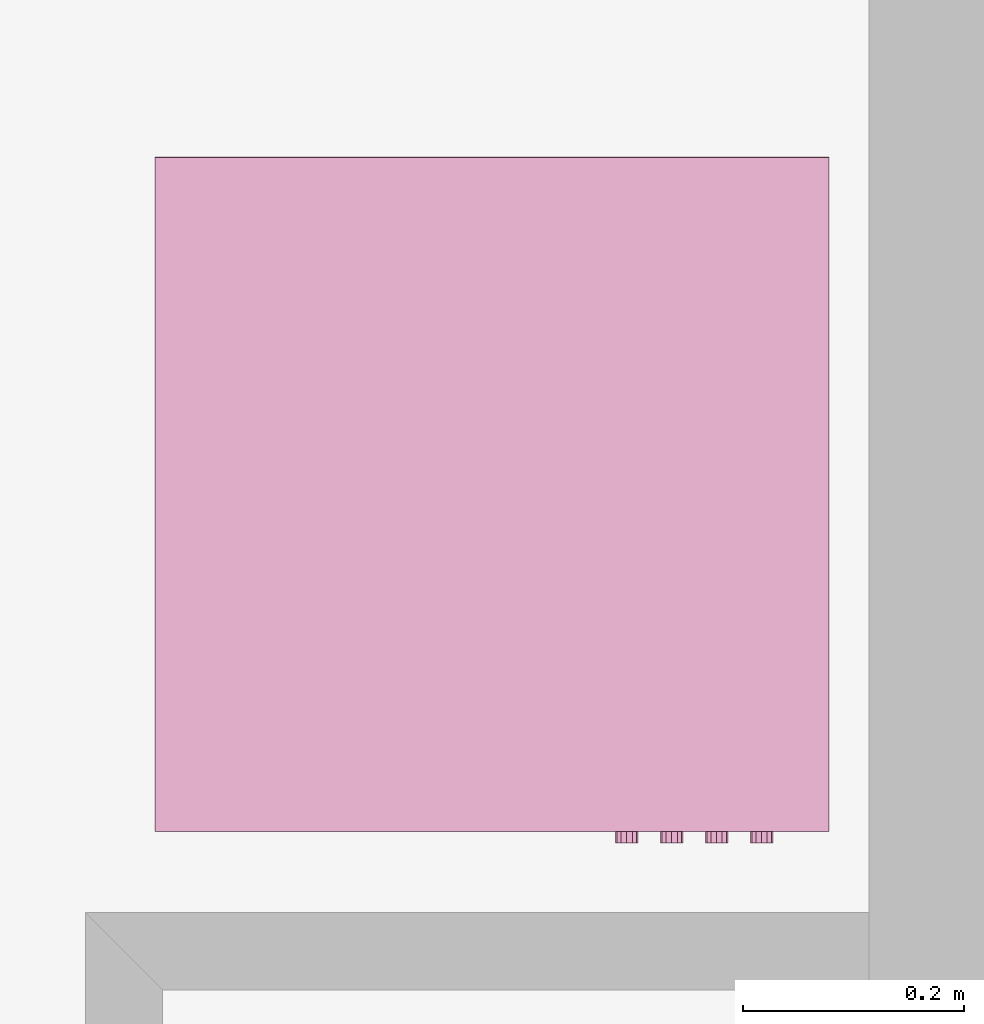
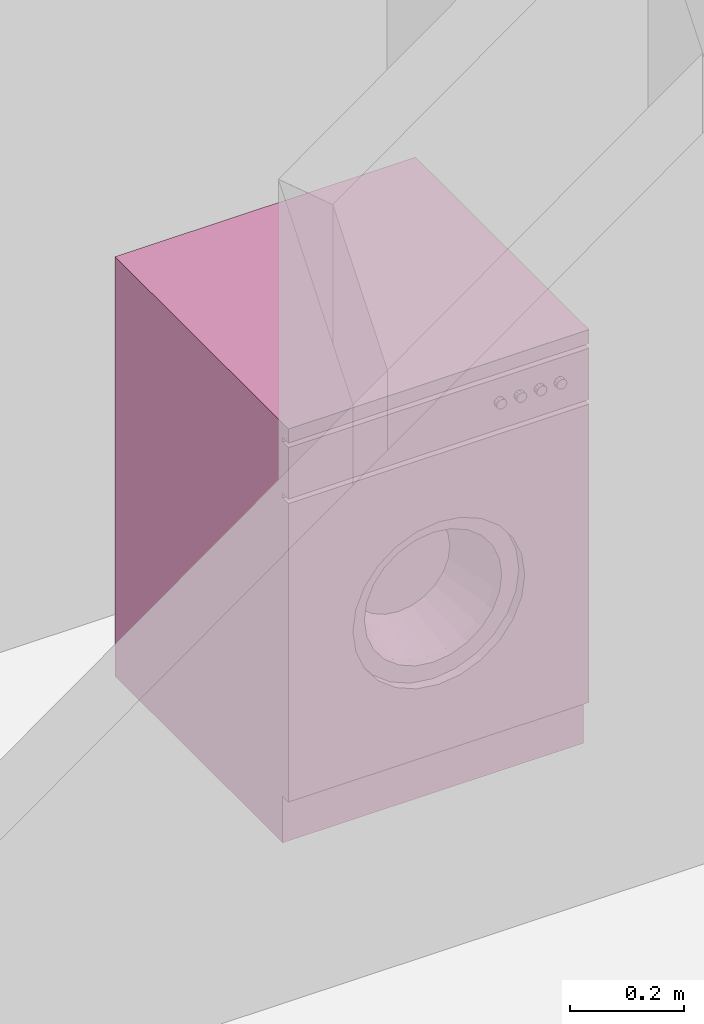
# One storey, part 144 of 171: 1 furnishing.
"""IFC2X3 building model written with IfcOpenShell, lengths in millimetres."""

from ifc_helpers import new_model, entity, si_unit, converted_unit, derived_unit, money_unit, direction, frame, origin_with_axes, place, context, subcontext, project, spatial, open_shell, faceted_brep, surface_model, type_object, element, save


model = new_model("IFC2X3")

# Units and contexts
model_context = context("Model", 3, precision=0.01, world=origin_with_axes(), true_north=direction((0.0, 1.0)))
body_context = subcontext(model_context, "Body", "Model", "MODEL_VIEW")
ifc_project = project(units=[si_unit("LENGTHUNIT", "METRE", prefix="MILLI"), si_unit("AREAUNIT", "SQUARE_METRE"), si_unit("VOLUMEUNIT", "CUBIC_METRE"), converted_unit("PLANEANGLEUNIT", "DEGREE", entity("IfcPlaneAngleMeasure", 0.0174532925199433), si_unit("PLANEANGLEUNIT", "RADIAN"), dimensions=[0, 0, 0, 0, 0, 0, 0]), money_unit("USD"), converted_unit("TIMEUNIT", "Year", entity("IfcTimeMeasure", 31557600.0), si_unit("TIMEUNIT", "SECOND"), dimensions=[0, 0, 1, 0, 0, 0, 0]), si_unit("MASSUNIT", "GRAM", prefix="KILO"), si_unit("THERMODYNAMICTEMPERATUREUNIT", "DEGREE_CELSIUS"), si_unit("LUMINOUSINTENSITYUNIT", "LUMEN"), si_unit("ENERGYUNIT", "JOULE", prefix="MEGA"), derived_unit("THERMALCONDUCTANCEUNIT", [(si_unit("POWERUNIT", "WATT"), 1), (si_unit("LENGTHUNIT", "METRE"), -1), (si_unit("THERMODYNAMICTEMPERATUREUNIT", "KELVIN"), -1)]), derived_unit("SPECIFICHEATCAPACITYUNIT", [(si_unit("ENERGYUNIT", "JOULE"), 1), (si_unit("MASSUNIT", "GRAM", prefix="KILO"), -1), (si_unit("THERMODYNAMICTEMPERATUREUNIT", "KELVIN"), -1)]), derived_unit("MASSDENSITYUNIT", [(si_unit("MASSUNIT", "GRAM", prefix="KILO"), 1), (si_unit("VOLUMEUNIT", "CUBIC_METRE"), -1)])], contexts=[model_context])

# Site, building, storey
site_placement = place(None, origin_with_axes())
site = spatial("IfcSite", under=ifc_project, at=site_placement, Name="Site", CompositionType="ELEMENT")
building_placement = place(site_placement, origin_with_axes())
building = spatial("IfcBuilding", under=site, at=building_placement, Name="Bâtiment", CompositionType="ELEMENT")
storey_placement = place(building_placement, frame((0.0, 0.0, 3000.0), z_axis=(0.0, 0.0, 1.0), x_axis=(1.0, 0.0, 0.0)))
storey = spatial("IfcBuildingStorey", under=building, at=storey_placement, Name="rdc", CompositionType="ELEMENT", Elevation=3000.0)

# Furnishing
furnishing_element_type = type_object("IfcFurnishingElementType", Name="Machine à laver")
furnishing_placement = place(storey_placement, frame((2224095.895994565, -647582.5780079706, 0.0), z_axis=(0.0, 0.0, 1.0), x_axis=(0.9999999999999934, -1.149856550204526e-07, 0.0)))
element("IfcFurnishingElement", 1, at=furnishing_placement, inside=storey, type_object=furnishing_element_type, Name="Obj.-003", context=body_context, shape_type="SurfaceModel", body=[
    faceted_brep([(1.13686837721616e-10, 20.33333333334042, 100.0000000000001), (0.0, 0.0, 100.0000000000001), (-610.0000000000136, 0.0, 100.0000000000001), (-610.0000000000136, 20.33333333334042, 100.0000000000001), (1.13686837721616e-10, 20.33333333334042, 740.0000000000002), (0.0, 0.0, 740.0000000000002), (-610.0000000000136, 0.0, 740.0000000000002), (-479.2857142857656, 0.0, 419.9999999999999), (-473.3470725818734, 0.0, 465.1084621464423), (-455.9358560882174, 0.0, 507.1428571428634), (-428.2386104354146, 0.0, 543.2386104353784), (-392.1428571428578, 0.0, 570.9358560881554), (-350.1084621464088, 0.0, 588.3470725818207), (-305.0000000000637, 0.0, 594.2857142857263), (-259.8915378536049, 0.0, 588.3470725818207), (-217.8571428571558, 0.0, 570.9358560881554), (-181.7613895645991, 0.0, 543.2386104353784), (-154.0641439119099, 0.0, 507.1428571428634), (-136.652927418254, 0.0, 465.1084621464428), (-130.714285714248, 0.0, 419.9999999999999), (-136.652927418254, 0.0, 374.8915378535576), (-154.0641439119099, 0.0, 332.857142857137), (-181.7613895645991, 0.0, 296.7613895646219), (-217.8571428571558, 0.0, 269.0641439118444), (-259.8915378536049, 0.0, 251.6529274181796), (-305.0000000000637, 0.0, 245.7142857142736), (-350.1084621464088, 0.0, 251.6529274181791), (-392.1428571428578, 0.0, 269.0641439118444), (-428.2386104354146, 0.0, 296.7613895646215), (-455.9358560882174, 0.0, 332.8571428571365), (-473.3470725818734, 0.0, 374.8915378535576), (-610.0000000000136, 20.33333333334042, 740.0000000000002), (-479.2857142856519, 20.33333333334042, 419.9999999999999), (-473.3470725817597, 20.33333333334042, 374.8915378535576), (-455.9358560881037, 20.33333333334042, 332.8571428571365), (-428.2386104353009, 20.33333333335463, 296.7613895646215), (-392.1428571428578, 20.33333333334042, 269.0641439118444), (-350.1084621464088, 20.33333333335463, 251.6529274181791), (-304.99999999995, 20.33333333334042, 245.7142857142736), (-259.8915378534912, 20.33333333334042, 251.6529274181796), (-217.8571428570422, 20.33333333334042, 269.0641439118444), (-181.7613895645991, 20.33333333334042, 296.7613895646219), (-154.0641439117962, 20.33333333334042, 332.857142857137), (-136.6529274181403, 20.33333333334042, 374.8915378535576), (-130.714285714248, 20.33333333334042, 419.9999999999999), (-136.6529274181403, 20.33333333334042, 465.1084621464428), (-154.0641439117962, 20.33333333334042, 507.1428571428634), (-181.7613895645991, 20.33333333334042, 543.2386104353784), (-217.8571428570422, 20.33333333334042, 570.9358560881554), (-259.8915378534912, 20.33333333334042, 588.3470725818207), (-304.99999999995, 20.33333333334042, 594.2857142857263), (-350.1084621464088, 20.33333333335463, 588.3470725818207), (-392.1428571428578, 20.33333333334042, 570.9358560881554), (-428.2386104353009, 20.33333333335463, 543.2386104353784), (-455.9358560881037, 20.33333333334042, 507.1428571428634), (-473.3470725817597, 20.33333333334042, 465.1084621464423)], [[[0, 1, 2, 3]], [[4, 5, 1, 0]], [[1, 5, 6, 2], [7, 8, 9, 10, 11, 12, 13, 14, 15, 16, 17, 18, 19, 20, 21, 22, 23, 24, 25, 26, 27, 28, 29, 30]], [[3, 2, 6, 31]], [[0, 3, 31, 4], [32, 33, 34, 35, 36, 37, 38, 39, 40, 41, 42, 43, 44, 45, 46, 47, 48, 49, 50, 51, 52, 53, 54, 55]], [[31, 6, 5, 4]], [[55, 8, 7, 32]], [[54, 9, 8, 55]], [[53, 10, 9, 54]], [[52, 11, 10, 53]], [[51, 12, 11, 52]], [[50, 13, 12, 51]], [[49, 14, 13, 50]], [[48, 15, 14, 49]], [[47, 16, 15, 48]], [[46, 17, 16, 47]], [[45, 18, 17, 46]], [[44, 19, 18, 45]], [[43, 20, 19, 44]], [[42, 21, 20, 43]], [[41, 22, 21, 42]], [[40, 23, 22, 41]], [[39, 24, 23, 40]], [[38, 25, 24, 39]], [[37, 26, 25, 38]], [[36, 27, 26, 37]], [[35, 28, 27, 36]], [[34, 29, 28, 35]], [[33, 30, 29, 34]], [[32, 7, 30, 33]]]),
    faceted_brep([(-479.2857142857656, 40.66666666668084, 419.9999999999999), (-479.2857142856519, 20.33333333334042, 419.9999999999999), (-473.3470725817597, 20.33333333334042, 465.1084621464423), (-473.3470725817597, 40.66666666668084, 465.1084621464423), (-473.3470725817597, 40.66666666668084, 374.8915378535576), (-473.3470725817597, 20.33333333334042, 374.8915378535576), (-455.9358560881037, 20.33333333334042, 332.8571428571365), (-428.2386104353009, 20.33333333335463, 296.7613895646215), (-392.1428571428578, 20.33333333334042, 269.0641439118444), (-350.1084621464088, 20.33333333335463, 251.6529274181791), (-304.99999999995, 20.33333333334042, 245.7142857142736), (-259.8915378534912, 20.33333333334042, 251.6529274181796), (-217.8571428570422, 20.33333333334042, 269.0641439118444), (-181.7613895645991, 20.33333333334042, 296.7613895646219), (-154.0641439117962, 20.33333333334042, 332.857142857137), (-136.6529274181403, 20.33333333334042, 374.8915378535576), (-130.714285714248, 20.33333333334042, 419.9999999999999), (-136.6529274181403, 20.33333333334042, 465.1084621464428), (-154.0641439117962, 20.33333333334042, 507.1428571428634), (-181.7613895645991, 20.33333333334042, 543.2386104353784), (-217.8571428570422, 20.33333333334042, 570.9358560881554), (-259.8915378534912, 20.33333333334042, 588.3470725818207), (-304.99999999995, 20.33333333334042, 594.2857142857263), (-350.1084621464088, 20.33333333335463, 588.3470725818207), (-392.1428571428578, 20.33333333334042, 570.9358560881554), (-428.2386104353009, 20.33333333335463, 543.2386104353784), (-455.9358560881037, 20.33333333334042, 507.1428571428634), (-444.4285714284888, 20.33333333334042, 419.9999999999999), (-439.6776580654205, 20.33333333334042, 456.086769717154), (-425.7486848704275, 20.33333333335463, 489.7142857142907), (-403.5908883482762, 20.33333333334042, 518.5908883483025), (-374.7142857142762, 20.33333333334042, 540.7486848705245), (-341.0867697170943, 20.33333333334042, 554.6776580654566), (-304.99999999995, 20.33333333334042, 559.4285714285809), (-268.9132302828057, 20.33333333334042, 554.6776580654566), (-235.2857142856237, 20.33333333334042, 540.7486848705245), (-206.4091116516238, 20.33333333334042, 518.5908883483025), (-184.2513151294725, 20.33333333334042, 489.7142857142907), (-170.3223419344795, 20.33333333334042, 456.086769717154), (-165.5714285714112, 20.33333333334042, 419.9999999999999), (-170.3223419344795, 20.33333333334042, 383.9132302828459), (-184.2513151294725, 20.33333333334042, 350.2857142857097), (-206.4091116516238, 20.33333333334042, 321.4091116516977), (-235.2857142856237, 20.33333333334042, 299.2513151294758), (-268.9132302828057, 20.33333333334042, 285.3223419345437), (-304.99999999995, 20.33333333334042, 280.5714285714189), (-341.0867697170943, 20.33333333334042, 285.3223419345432), (-374.7142857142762, 20.33333333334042, 299.2513151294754), (-403.5908883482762, 20.33333333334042, 321.4091116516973), (-425.7486848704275, 20.33333333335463, 350.2857142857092), (-439.6776580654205, 20.33333333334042, 383.9132302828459), (-455.9358560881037, 40.66666666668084, 507.1428571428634), (-428.2386104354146, 40.66666666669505, 543.2386104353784), (-392.1428571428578, 40.66666666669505, 570.9358560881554), (-350.1084621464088, 40.66666666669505, 588.3470725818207), (-304.99999999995, 40.66666666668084, 594.2857142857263), (-259.8915378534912, 40.66666666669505, 588.3470725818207), (-217.8571428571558, 40.66666666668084, 570.9358560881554), (-181.7613895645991, 40.66666666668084, 543.2386104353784), (-154.0641439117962, 40.66666666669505, 507.1428571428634), (-136.6529274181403, 40.66666666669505, 465.1084621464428), (-130.714285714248, 40.66666666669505, 419.9999999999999), (-136.6529274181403, 40.66666666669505, 374.8915378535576), (-154.0641439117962, 40.66666666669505, 332.857142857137), (-181.7613895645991, 40.66666666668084, 296.7613895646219), (-217.8571428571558, 40.66666666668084, 269.0641439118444), (-259.8915378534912, 40.66666666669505, 251.6529274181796), (-304.99999999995, 40.66666666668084, 245.7142857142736), (-350.1084621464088, 40.66666666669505, 251.6529274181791), (-392.1428571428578, 40.66666666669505, 269.0641439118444), (-428.2386104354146, 40.66666666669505, 296.7613895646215), (-455.9358560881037, 40.66666666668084, 332.8571428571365), (-444.4285714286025, 40.66666666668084, 419.9999999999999), (-439.6776580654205, 40.66666666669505, 383.9132302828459), (-425.7486848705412, 40.66666666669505, 350.2857142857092), (-403.5908883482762, 40.66666666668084, 321.4091116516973), (-374.7142857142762, 40.66666666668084, 299.2513151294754), (-341.0867697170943, 40.66666666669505, 285.3223419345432), (-304.99999999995, 40.66666666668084, 280.5714285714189), (-268.9132302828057, 40.66666666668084, 285.3223419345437), (-235.2857142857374, 40.66666666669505, 299.2513151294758), (-206.4091116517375, 40.66666666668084, 321.4091116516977), (-184.2513151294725, 40.66666666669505, 350.2857142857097), (-170.3223419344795, 40.66666666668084, 383.9132302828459), (-165.5714285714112, 40.66666666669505, 419.9999999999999), (-170.3223419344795, 40.66666666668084, 456.086769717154), (-184.2513151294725, 40.66666666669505, 489.7142857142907), (-206.4091116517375, 40.66666666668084, 518.5908883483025), (-235.2857142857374, 40.66666666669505, 540.7486848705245), (-268.9132302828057, 40.66666666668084, 554.6776580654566), (-304.99999999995, 40.66666666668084, 559.4285714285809), (-341.0867697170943, 40.66666666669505, 554.6776580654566), (-374.7142857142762, 40.66666666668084, 540.7486848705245), (-403.5908883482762, 40.66666666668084, 518.5908883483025), (-425.7486848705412, 40.66666666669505, 489.7142857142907), (-439.6776580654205, 40.66666666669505, 456.086769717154)], [[[0, 1, 2, 3]], [[4, 5, 1, 0]], [[1, 5, 6, 7, 8, 9, 10, 11, 12, 13, 14, 15, 16, 17, 18, 19, 20, 21, 22, 23, 24, 25, 26, 2], [27, 28, 29, 30, 31, 32, 33, 34, 35, 36, 37, 38, 39, 40, 41, 42, 43, 44, 45, 46, 47, 48, 49, 50]], [[3, 2, 26, 51]], [[0, 3, 51, 52, 53, 54, 55, 56, 57, 58, 59, 60, 61, 62, 63, 64, 65, 66, 67, 68, 69, 70, 71, 4], [72, 73, 74, 75, 76, 77, 78, 79, 80, 81, 82, 83, 84, 85, 86, 87, 88, 89, 90, 91, 92, 93, 94, 95]], [[71, 6, 5, 4]], [[70, 7, 6, 71]], [[69, 8, 7, 70]], [[68, 9, 8, 69]], [[67, 10, 9, 68]], [[66, 11, 10, 67]], [[65, 12, 11, 66]], [[64, 13, 12, 65]], [[63, 14, 13, 64]], [[62, 15, 14, 63]], [[61, 16, 15, 62]], [[60, 17, 16, 61]], [[59, 18, 17, 60]], [[58, 19, 18, 59]], [[57, 20, 19, 58]], [[56, 21, 20, 57]], [[55, 22, 21, 56]], [[54, 23, 22, 55]], [[53, 24, 23, 54]], [[52, 25, 24, 53]], [[51, 26, 25, 52]], [[95, 28, 27, 72]], [[94, 29, 28, 95]], [[93, 30, 29, 94]], [[92, 31, 30, 93]], [[91, 32, 31, 92]], [[90, 33, 32, 91]], [[89, 34, 33, 90]], [[88, 35, 34, 89]], [[87, 36, 35, 88]], [[86, 37, 36, 87]], [[85, 38, 37, 86]], [[84, 39, 38, 85]], [[83, 40, 39, 84]], [[82, 41, 40, 83]], [[81, 42, 41, 82]], [[80, 43, 42, 81]], [[79, 44, 43, 80]], [[78, 45, 44, 79]], [[77, 46, 45, 78]], [[76, 47, 46, 77]], [[75, 48, 47, 76]], [[74, 49, 48, 75]], [[73, 50, 49, 74]], [[72, 27, 50, 73]]]),
    surface_model("IfcShellBasedSurfaceModel", [(-268.9132302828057, 40.66666666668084, 554.6776580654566), (-277.9349227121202, 142.3333333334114, 521.0082435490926), (-304.99999999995, 142.3333333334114, 524.5714285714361), (-304.99999999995, 40.66666666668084, 559.4285714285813), (-235.2857142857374, 40.66666666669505, 540.7486848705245), (-252.7142857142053, 142.3333333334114, 510.5615136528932), (-231.0568337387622, 142.3333333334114, 493.9431662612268), (-214.438486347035, 142.3333333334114, 472.285714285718), (-203.9917564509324, 142.3333333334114, 447.0650772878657), (-200.4285714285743, 142.3333333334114, 419.9999999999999), (-203.9917564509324, 142.3333333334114, 392.9349227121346), (-214.438486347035, 142.3333333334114, 367.7142857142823), (-231.0568337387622, 142.3333333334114, 346.056833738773), (-252.7142857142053, 142.3333333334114, 329.4384863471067), (-277.9349227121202, 142.3333333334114, 318.9917564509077), (-304.99999999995, 142.3333333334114, 315.4285714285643), (-332.0650772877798, 142.3333333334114, 318.9917564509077), (-357.2857142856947, 142.3333333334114, 329.4384863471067), (-378.9431662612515, 142.3333333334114, 346.056833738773), (-395.561513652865, 142.3333333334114, 367.7142857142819), (-406.0082435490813, 142.3333333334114, 392.9349227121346), (-409.5714285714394, 142.3333333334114, 419.9999999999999), (-406.0082435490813, 142.3333333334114, 447.0650772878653), (-395.561513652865, 142.3333333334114, 472.285714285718), (-378.9431662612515, 142.3333333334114, 493.9431662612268), (-357.2857142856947, 142.3333333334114, 510.5615136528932), (-332.0650772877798, 142.3333333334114, 521.0082435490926), (-341.0867697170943, 40.66666666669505, 554.6776580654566), (-206.4091116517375, 40.66666666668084, 518.5908883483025), (-184.2513151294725, 40.66666666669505, 489.7142857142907), (-170.3223419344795, 40.66666666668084, 456.086769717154), (-165.5714285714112, 40.66666666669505, 419.9999999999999), (-170.3223419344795, 40.66666666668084, 383.9132302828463), (-184.2513151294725, 40.66666666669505, 350.2857142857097), (-206.4091116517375, 40.66666666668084, 321.4091116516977), (-235.2857142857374, 40.66666666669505, 299.2513151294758), (-268.9132302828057, 40.66666666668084, 285.3223419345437), (-304.99999999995, 40.66666666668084, 280.5714285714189), (-341.0867697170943, 40.66666666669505, 285.3223419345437), (-374.7142857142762, 40.66666666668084, 299.2513151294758), (-403.5908883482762, 40.66666666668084, 321.4091116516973), (-425.7486848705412, 40.66666666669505, 350.2857142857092), (-439.6776580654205, 40.66666666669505, 383.9132302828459), (-444.4285714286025, 40.66666666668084, 419.9999999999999), (-439.6776580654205, 40.66666666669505, 456.086769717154), (-425.7486848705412, 40.66666666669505, 489.7142857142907), (-403.5908883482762, 40.66666666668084, 518.5908883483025), (-374.7142857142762, 40.66666666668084, 540.7486848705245)], [open_shell([[[0, 1, 2, 3]], [[4, 5, 1, 0]], [[2, 1, 5, 6, 7, 8, 9, 10, 11, 12, 13, 14, 15, 16, 17, 18, 19, 20, 21, 22, 23, 24, 25, 26]], [[3, 2, 26, 27]], [[28, 6, 5, 4]], [[29, 7, 6, 28]], [[30, 8, 7, 29]], [[31, 9, 8, 30]], [[32, 10, 9, 31]], [[33, 11, 10, 32]], [[34, 12, 11, 33]], [[35, 13, 12, 34]], [[36, 14, 13, 35]], [[37, 15, 14, 36]], [[38, 16, 15, 37]], [[39, 17, 16, 38]], [[40, 18, 17, 39]], [[41, 19, 18, 40]], [[42, 20, 19, 41]], [[43, 21, 20, 42]], [[44, 22, 21, 43]], [[45, 23, 22, 44]], [[46, 24, 23, 45]], [[47, 25, 24, 46]], [[27, 26, 25, 47]]])]),
    surface_model("IfcShellBasedSurfaceModel", [(1.13686837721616e-10, 20.33333333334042, 100.0000000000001), (0.0, 610.0000000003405, 100.0000000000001), (0.0, 610.0000000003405, 870.0000000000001), (1.13686837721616e-10, 20.33333333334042, 870.0000000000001)], [open_shell([[[0, 1, 2, 3]]])]),
    surface_model("IfcShellBasedSurfaceModel", [(-610.0000000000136, 20.33333333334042, 100.0000000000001), (-610.0000000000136, 610.0000000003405, 100.0000000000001), (-610.0000000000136, 610.0000000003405, 870.0000000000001), (-610.0000000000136, 20.33333333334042, 870.0000000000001)], [open_shell([[[0, 1, 2, 3]]])]),
    surface_model("IfcShellBasedSurfaceModel", [(0.0, 610.0000000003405, 100.0000000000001), (-610.0000000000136, 610.0000000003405, 100.0000000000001), (-610.0000000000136, 610.0000000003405, 870.0000000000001), (0.0, 610.0000000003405, 870.0000000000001)], [open_shell([[[0, 1, 2, 3]]])]),
    faceted_brep([(1.13686837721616e-10, 20.33333333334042, 0.0), (1.13686837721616e-10, 20.33333333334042, 100.0000000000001), (-610.0000000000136, 20.33333333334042, 100.0000000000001), (-610.0000000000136, 20.33333333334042, 0.0), (0.0, 610.3333333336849, 0.0), (0.0, 610.3333333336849, 100.0000000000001), (-610.0000000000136, 610.3333333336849, 100.0000000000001), (-610.0000000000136, 610.3333333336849, 0.0)], [[[0, 1, 2, 3]], [[4, 5, 1, 0]], [[1, 5, 6, 2]], [[3, 2, 6, 7]], [[0, 3, 7, 4]], [[7, 6, 5, 4]]]),
    faceted_brep([(1.13686837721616e-10, 20.33333333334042, 750.0), (0.0, 0.0, 750.0), (-610.0000000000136, 0.0, 750.0), (-610.0000000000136, 20.33333333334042, 750.0), (1.13686837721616e-10, 20.33333333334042, 859.9999999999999), (0.0, 0.0, 859.9999999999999), (-610.0000000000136, 0.0, 859.9999999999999), (-610.0000000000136, 20.33333333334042, 859.9999999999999)], [[[0, 1, 2, 3]], [[4, 5, 1, 0]], [[1, 5, 6, 2]], [[3, 2, 6, 7]], [[0, 3, 7, 4]], [[7, 6, 5, 4]]]),
    surface_model("IfcShellBasedSurfaceModel", [(1.13686837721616e-10, 20.33333333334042, 739.8333333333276), (-610.0000000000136, 20.33333333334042, 739.8333333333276), (-610.0000000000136, 20.33333333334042, 869.8333333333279), (1.13686837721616e-10, 20.33333333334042, 869.8333333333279)], [open_shell([[[0, 1, 2, 3]]])]),
    faceted_brep([(0.0, 0.0, 870.0000000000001), (0.0, 0.0, 899.9999999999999), (-610.0000000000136, 0.0, 899.9999999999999), (-610.0000000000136, 0.0, 870.0000000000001), (0.0, 610.0000000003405, 870.0000000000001), (0.0, 610.0000000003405, 899.9999999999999), (-610.0000000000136, 610.0000000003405, 899.9999999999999), (-610.0000000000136, 610.0000000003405, 870.0000000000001)], [[[0, 1, 2, 3]], [[4, 5, 1, 0]], [[1, 5, 6, 2]], [[3, 2, 6, 7]], [[0, 3, 7, 4]], [[7, 6, 5, 4]]]),
    faceted_brep([(-69.80459160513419, 0.0, 804.9166666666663), (-71.166666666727, 0.0, 810.0), (-69.80459160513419, 0.0, 815.0833333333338), (-66.08333333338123, 0.0, 818.8045916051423), (-61.00000000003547, 0.0, 820.1666666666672), (-55.91666666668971, 0.0, 818.8045916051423), (-52.19540839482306, 0.0, 815.0833333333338), (-50.83333333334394, 0.0, 810.0), (-52.19540839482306, 0.0, 804.9166666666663), (-55.91666666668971, 0.0, 801.1954083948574), (-61.00000000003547, 0.0, 799.8333333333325), (-66.08333333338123, 0.0, 801.1954083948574), (-69.80459160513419, -10.16666666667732, 804.9166666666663), (-71.16666666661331, -10.16666666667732, 810.0), (-69.80459160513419, -10.16666666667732, 815.0833333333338), (-66.08333333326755, -10.16666666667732, 818.8045916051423), (-61.00000000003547, -10.1666666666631, 820.1666666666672), (-55.91666666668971, -10.16666666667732, 818.8045916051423), (-52.19540839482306, -10.16666666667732, 815.0833333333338), (-50.83333333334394, -10.16666666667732, 810.0), (-52.19540839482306, -10.16666666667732, 804.9166666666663), (-55.91666666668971, -10.16666666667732, 801.1954083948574), (-61.00000000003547, -10.1666666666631, 799.8333333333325), (-66.08333333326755, -10.16666666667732, 801.1954083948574)], [[[0, 1, 2, 3, 4, 5, 6, 7, 8, 9, 10, 11]], [[0, 12, 13, 1]], [[1, 13, 14, 2]], [[2, 14, 15, 3]], [[3, 15, 16, 4]], [[4, 16, 17, 5]], [[5, 17, 18, 6]], [[6, 18, 19, 7]], [[7, 19, 20, 8]], [[8, 20, 21, 9]], [[9, 21, 22, 10]], [[10, 22, 23, 11]], [[11, 23, 12, 0]], [[12, 23, 22, 21, 20, 19, 18, 17, 16, 15, 14, 13]]]),
    faceted_brep([(-110.4712582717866, 0.0, 804.9166666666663), (-111.8333333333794, 0.0, 810.0), (-110.4712582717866, 0.0, 815.0833333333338), (-106.7500000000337, 0.0, 818.8045916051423), (-101.6666666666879, 0.0, 820.1666666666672), (-96.58333333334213, 0.0, 818.8045916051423), (-92.86207506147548, 0.0, 815.0833333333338), (-91.49999999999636, 0.0, 810.0), (-92.86207506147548, 0.0, 804.9166666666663), (-96.58333333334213, 0.0, 801.1954083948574), (-101.6666666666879, 0.0, 799.8333333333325), (-106.7500000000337, 0.0, 801.1954083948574), (-110.4712582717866, -10.16666666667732, 804.9166666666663), (-111.8333333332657, -10.16666666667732, 810.0), (-110.4712582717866, -10.16666666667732, 815.0833333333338), (-106.7500000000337, -10.16666666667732, 818.8045916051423), (-101.6666666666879, -10.1666666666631, 820.1666666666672), (-96.58333333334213, -10.16666666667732, 818.8045916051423), (-92.86207506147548, -10.16666666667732, 815.0833333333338), (-91.49999999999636, -10.16666666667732, 810.0), (-92.86207506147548, -10.16666666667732, 804.9166666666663), (-96.58333333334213, -10.16666666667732, 801.1954083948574), (-101.6666666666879, -10.1666666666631, 799.8333333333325), (-106.7500000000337, -10.16666666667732, 801.1954083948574)], [[[0, 1, 2, 3, 4, 5, 6, 7, 8, 9, 10, 11]], [[0, 12, 13, 1]], [[1, 13, 14, 2]], [[2, 14, 15, 3]], [[3, 15, 16, 4]], [[4, 16, 17, 5]], [[5, 17, 18, 6]], [[6, 18, 19, 7]], [[7, 19, 20, 8]], [[8, 20, 21, 9]], [[9, 21, 22, 10]], [[10, 22, 23, 11]], [[11, 23, 12, 0]], [[12, 23, 22, 21, 20, 19, 18, 17, 16, 15, 14, 13]]]),
    faceted_brep([(-151.137924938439, 0.0, 804.9166666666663), (-152.5000000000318, 0.0, 810.0), (-151.137924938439, 0.0, 815.0833333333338), (-147.4166666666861, 0.0, 818.8045916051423), (-142.3333333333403, 0.0, 820.1666666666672), (-137.2499999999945, 0.0, 818.8045916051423), (-133.5287417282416, 0.0, 815.0833333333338), (-132.1666666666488, 0.0, 810.0), (-133.5287417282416, 0.0, 804.9166666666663), (-137.2499999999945, 0.0, 801.1954083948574), (-142.3333333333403, 0.0, 799.8333333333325), (-147.4166666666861, 0.0, 801.1954083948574), (-151.137924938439, -10.16666666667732, 804.9166666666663), (-152.5000000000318, -10.16666666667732, 810.0), (-151.137924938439, -10.16666666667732, 815.0833333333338), (-147.4166666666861, -10.16666666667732, 818.8045916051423), (-142.3333333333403, -10.16666666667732, 820.1666666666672), (-137.2499999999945, -10.16666666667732, 818.8045916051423), (-133.5287417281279, -10.16666666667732, 815.0833333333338), (-132.1666666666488, -10.16666666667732, 810.0), (-133.5287417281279, -10.16666666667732, 804.9166666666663), (-137.2499999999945, -10.16666666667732, 801.1954083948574), (-142.3333333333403, -10.16666666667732, 799.8333333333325), (-147.4166666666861, -10.16666666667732, 801.1954083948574)], [[[0, 1, 2, 3, 4, 5, 6, 7, 8, 9, 10, 11]], [[0, 12, 13, 1]], [[1, 13, 14, 2]], [[2, 14, 15, 3]], [[3, 15, 16, 4]], [[4, 16, 17, 5]], [[5, 17, 18, 6]], [[6, 18, 19, 7]], [[7, 19, 20, 8]], [[8, 20, 21, 9]], [[9, 21, 22, 10]], [[10, 22, 23, 11]], [[11, 23, 12, 0]], [[12, 23, 22, 21, 20, 19, 18, 17, 16, 15, 14, 13]]]),
    faceted_brep([(-191.8045916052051, 0.0, 804.9166666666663), (-193.1666666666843, 0.0, 810.0), (-191.8045916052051, 0.0, 815.0833333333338), (-188.0833333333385, 0.0, 818.8045916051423), (-182.9999999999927, 0.0, 820.1666666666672), (-177.916666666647, 0.0, 818.8045916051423), (-174.195408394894, 0.0, 815.0833333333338), (-172.8333333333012, 0.0, 810.0), (-174.195408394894, 0.0, 804.9166666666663), (-177.916666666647, 0.0, 801.1954083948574), (-182.9999999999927, 0.0, 799.8333333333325), (-188.0833333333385, 0.0, 801.1954083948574), (-191.8045916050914, -10.16666666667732, 804.9166666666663), (-193.1666666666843, -10.16666666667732, 810.0), (-191.8045916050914, -10.16666666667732, 815.0833333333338), (-188.0833333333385, -10.16666666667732, 818.8045916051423), (-182.9999999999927, -10.16666666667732, 820.1666666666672), (-177.916666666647, -10.1666666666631, 818.8045916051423), (-174.195408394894, -10.16666666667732, 815.0833333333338), (-172.8333333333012, -10.16666666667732, 810.0), (-174.195408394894, -10.16666666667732, 804.9166666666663), (-177.916666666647, -10.1666666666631, 801.1954083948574), (-182.9999999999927, -10.16666666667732, 799.8333333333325), (-188.0833333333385, -10.16666666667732, 801.1954083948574)], [[[0, 1, 2, 3, 4, 5, 6, 7, 8, 9, 10, 11]], [[0, 12, 13, 1]], [[1, 13, 14, 2]], [[2, 14, 15, 3]], [[3, 15, 16, 4]], [[4, 16, 17, 5]], [[5, 17, 18, 6]], [[6, 18, 19, 7]], [[7, 19, 20, 8]], [[8, 20, 21, 9]], [[9, 21, 22, 10]], [[10, 22, 23, 11]], [[11, 23, 12, 0]], [[12, 23, 22, 21, 20, 19, 18, 17, 16, 15, 14, 13]]]),
])

save(model, "model.ifc")
